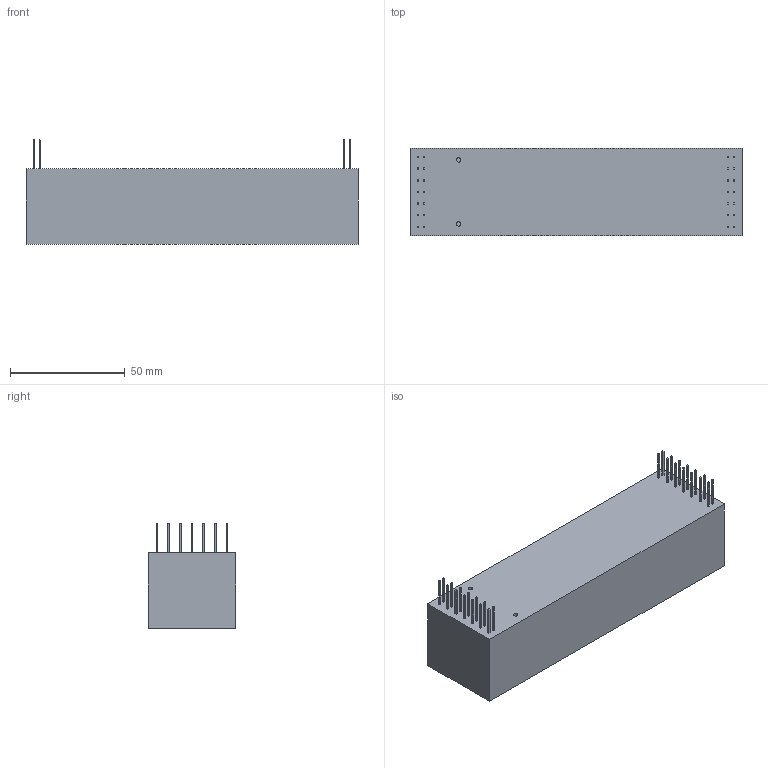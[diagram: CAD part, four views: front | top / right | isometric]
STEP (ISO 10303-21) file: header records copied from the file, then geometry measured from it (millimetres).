
FILE_DESCRIPTION((''),'2;1');
FILE_NAME('OL-034_revC1_15FL-RB_15EFL-RB_gen-stp-file.stp','2011-01-14T10:21:54',(''),(''),'Mechanical Desktop 2007','Mechanical Desktop 2007',', , ');
FILE_SCHEMA(('CONFIG_CONTROL_DESIGN'));
Length unit declared in the file: inch
Products named in the file (2): OL-034_REVC1_15FL-RB_15EFL-RB_GEN-STP-FILE; OL-033
Assembly tree (1 placements, depth 2):
  OL-034_REVC1_15FL-RB_15EFL-RB_GEN-STP-FILE
    OL-033
Bounding box: 144.78 x 38.1 x 45.72 mm (x, y, z)
Volume: 182186.9 mm3; surface area: 24215.2 mm2
Topology: 1 solids, 1 shells, 208 faces, 474 edges, 298 vertices
Faces by surface type: plane 204, cylinder 4
Entity records: 5760 total; most frequent: CARTESIAN_POINT 980, ORIENTED_EDGE 944, DIRECTION 904, EDGE_CURVE 472, VECTOR 464, LINE 464, VERTEX_POINT 296, EDGE_LOOP 238
